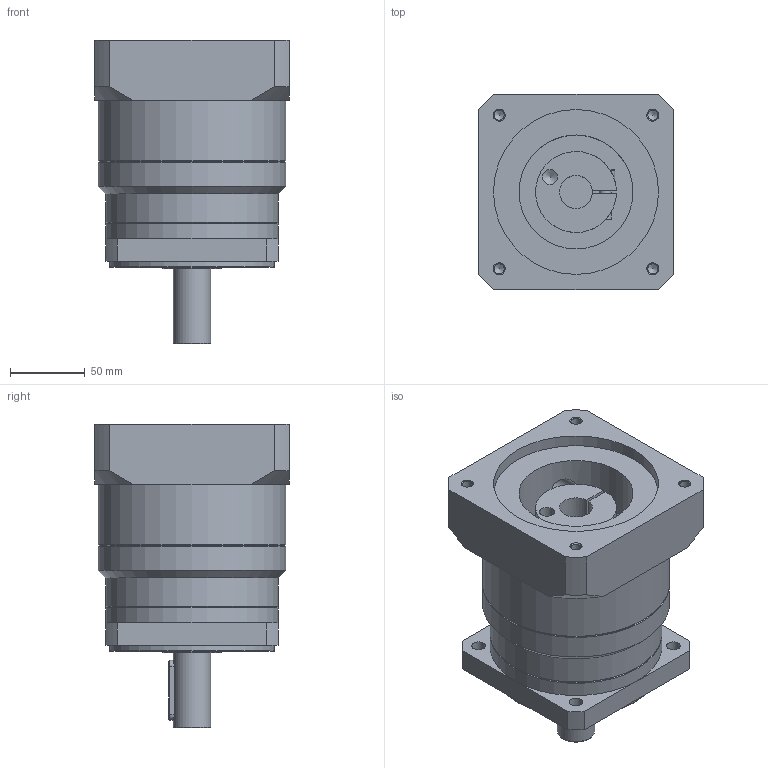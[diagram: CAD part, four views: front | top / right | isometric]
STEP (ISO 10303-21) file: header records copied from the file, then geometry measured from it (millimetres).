
FILE_DESCRIPTION(/* description */ ('STEP AP214'),/* implementation_level */ '2;1');
FILE_NAME(/* name */ 'C:\Users\m039\Desktop\精密行星标准图2019.5.20\行星外形图\B版精密行星外形图3D\GPBS\GPBS120-单节 外形图-∅22x73.5-∅110x8-∅145xM8-□130-.stp',/* time_stamp */ '2021-12-17T13:25:24+08:00',/* author */ ('m039'),/* organization */ ('Î¢ÈíÖÐ¹ú'),/* preprocessor_version */ 'ST-DEVELOPER v17.2',/* originating_system */ 'Autodesk Inventor 2019',/* authorisation */ '');
FILE_SCHEMA (('AUTOMOTIVE_DESIGN { 1 0 10303 214 3 1 1 }'));
Length unit declared in the file: millimetre
Products named in the file (1): GPBS120-单节 外形图-∅22x73.5-∅1
10x8-∅145xM8-□130
Bounding box: 130 x 130 x 202.5 mm (x, y, z)
Volume: 1657424.4 mm3; surface area: 146909.1 mm2
Topology: 1 solids, 1 shells, 109 faces, 305 edges, 211 vertices
Faces by surface type: plane 44, cylinder 37, cone 23, torus 5
Full cylindrical faces by diameter (mm): 6.8 x4, 8 x1, 8.5 x1, 9 x4, 10 x1, 13 x1, 14 x1, 22 x1, 25 x1, 39.5 x1, 40 x1, 76 x1, 110 x2, 115 x2, 125 x2
Entity records: 3748 total; most frequent: CARTESIAN_POINT 743, DIRECTION 667, ORIENTED_EDGE 598, EDGE_CURVE 299, AXIS2_PLACEMENT_3D 271, VERTEX_POINT 211, CIRCLE 161, EDGE_LOOP 140
